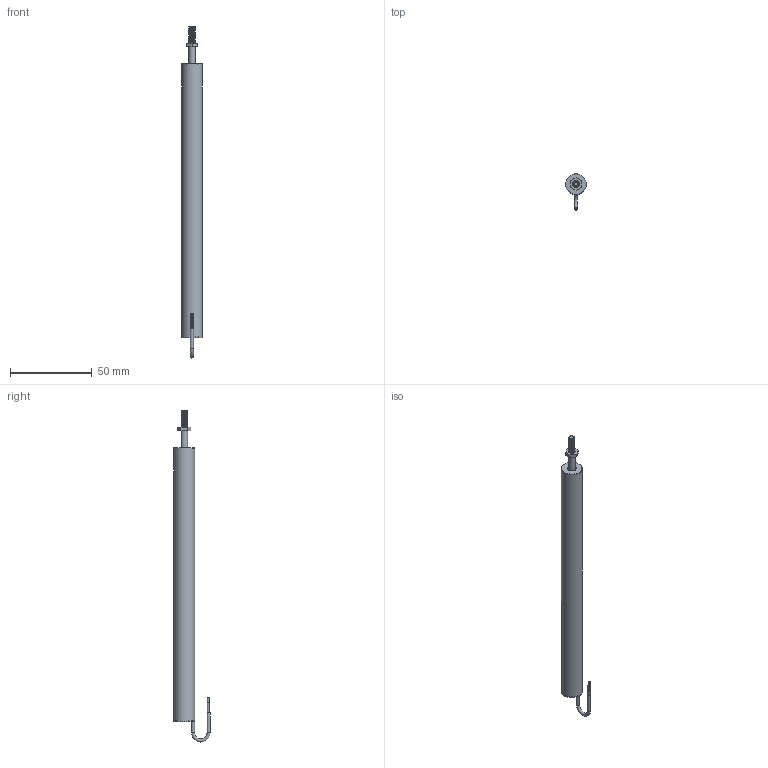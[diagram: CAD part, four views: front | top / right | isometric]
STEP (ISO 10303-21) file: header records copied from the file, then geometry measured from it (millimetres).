
FILE_DESCRIPTION(/* description */ (''),/* implementation_level */ '2;1');
FILE_NAME(/* name */ 'C:\Users\Justin\Documents\CAD\The Sensor Connection\Position Sensors\Displacement\ILPS\3D\Mechanically Linked\ILPS-13Z-XXX-A-00-YY-S\ILPS-13Z-06-A-00-YY-S\ILPS-13Z-06-A-00-YY-S Assembly_SW.iam.stp',/* time_stamp */ '2022-06-03T09:26:37-04:00',/* author */ ('TSC_Grant'),/* organization */ (''),/* preprocessor_version */ 'ST-DEVELOPER v19',/* originating_system */ 'Autodesk Inventor 2023',/* authorisation */ '');
FILE_SCHEMA (('AUTOMOTIVE_DESIGN { 1 0 10303 214 3 1 1 }'));
Length unit declared in the file: inch
Products named in the file (5): 3020-0017-XX Assembly_SW; 3020-0017-XX Sensor Tube_SW; 3020-0017-XX Shaft_SW; 3020-0017-XX Wire_SW; BS 4183 - M4
Assembly tree (4 placements, depth 2):
  3020-0017-XX Assembly_SW
    3020-0017-XX Sensor Tube_SW
    3020-0017-XX Shaft_SW
    3020-0017-XX Wire_SW
    BS 4183 - M4
Bounding box: 12.7 x 22.14 x 203.01 mm (x, y, z)
Volume: 4375.1 mm3; surface area: 21963.1 mm2
Topology: 7 solids, 7 shells, 60 faces, 112 edges, 74 vertices
Faces by surface type: plane 31, cylinder 21, cone 4, bspline 3, torus 1
Full cylindrical faces by diameter (mm): 0.508 x4, 0.635 x4, 1.857 x2, 3.242 x1, 3.988 x1, 4.826 x1, 5.588 x3, 12.446 x2, 12.7 x1
Entity records: 3399 total; most frequent: CARTESIAN_POINT 1856, DIRECTION 281, ORIENTED_EDGE 224, AXIS2_PLACEMENT_3D 116, EDGE_CURVE 112, EDGE_LOOP 78, VERTEX_POINT 74, FACE_OUTER_BOUND 60
